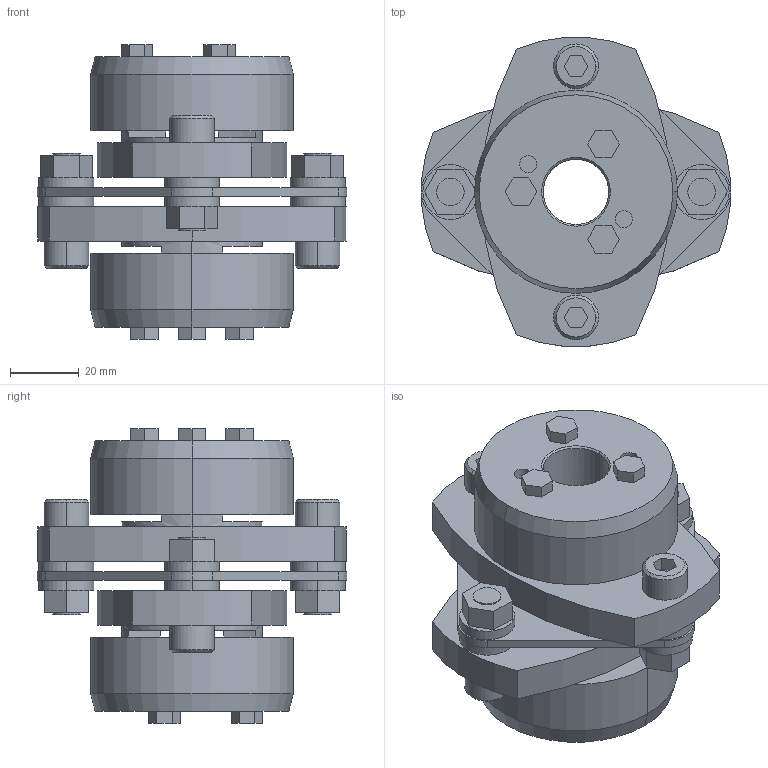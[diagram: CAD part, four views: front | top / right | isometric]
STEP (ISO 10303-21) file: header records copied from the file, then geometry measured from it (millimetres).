
FILE_DESCRIPTION((''),'2;1');
FILE_NAME('LCS-90T7-19×22.stp','2011-09-09T09:52:02',(''),(''),'AutoCAD STEP 2000i','AutoCAD 2000i',', , ');
FILE_SCHEMA(('CONFIG_CONTROL_DESIGN'));
Length unit declared in the file: millimetre
Products named in the file (7): LCS-90T7-19×19; 忣兜1; LC90T7-T019-1; LC90T7-T019; LC90-B019-1; LC90-B019; LCS90-ITA
Assembly tree (6 placements, depth 2):
  LCS-90T7-19×19
    忣兜1
    LC90T7-T019-1
    LC90T7-T019
    LC90-B019-1
    LC90-B019
    LCS90-ITA
Bounding box: 90 x 89.94 x 85.5 mm (x, y, z)
Volume: 205334.9 mm3; surface area: 52501.8 mm2
Topology: 1 solids, 1 shells, 235 faces, 580 edges, 378 vertices
Faces by surface type: plane 135, cylinder 80, cone 20
Entity records: 7183 total; most frequent: DIRECTION 1266, CARTESIAN_POINT 1200, ORIENTED_EDGE 1160, EDGE_CURVE 580, AXIS2_PLACEMENT_3D 444, VERTEX_POINT 378, VECTOR 378, LINE 378
